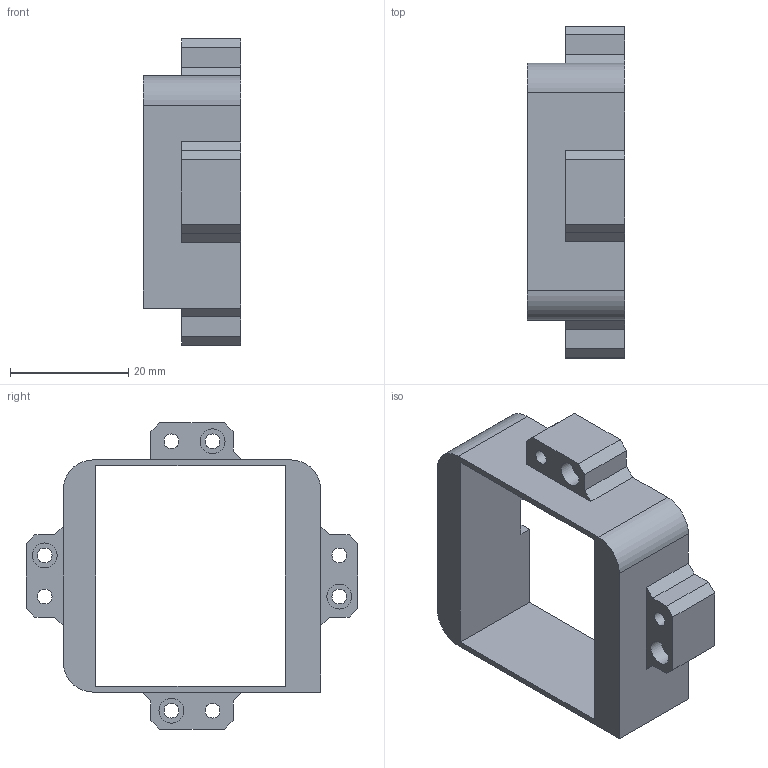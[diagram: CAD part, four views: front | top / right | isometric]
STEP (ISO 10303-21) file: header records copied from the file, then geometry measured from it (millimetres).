
FILE_DESCRIPTION(/* description */ (''),/* implementation_level */ '2;1');
FILE_NAME(/* name */ 'upper_mold.stp',/* time_stamp */ '2025-08-17T17:05:07+02:00',/* author */ ('MehdiBelhadj'),/* organization */ (''),/* preprocessor_version */ 'ST-DEVELOPER v20.1',/* originating_system */ 'Autodesk Inventor 2026',/* authorisation */ '');
FILE_SCHEMA (('AUTOMOTIVE_DESIGN { 1 0 10303 214 3 1 1 }'));
Length unit declared in the file: millimetre
Products named in the file (1): upper mold
Bounding box: 16.5 x 56.1 x 51.83 mm (x, y, z)
Volume: 11072.9 mm3; surface area: 7668.5 mm2
Topology: 1 solids, 1 shells, 98 faces, 264 edges, 176 vertices
Faces by surface type: plane 83, cylinder 15
Full cylindrical faces by diameter (mm): 2.5 x8, 4.2 x4
Entity records: 3224 total; most frequent: CARTESIAN_POINT 539, ORIENTED_EDGE 528, DIRECTION 492, EDGE_CURVE 264, LINE 234, VECTOR 234, VERTEX_POINT 176, AXIS2_PLACEMENT_3D 129
